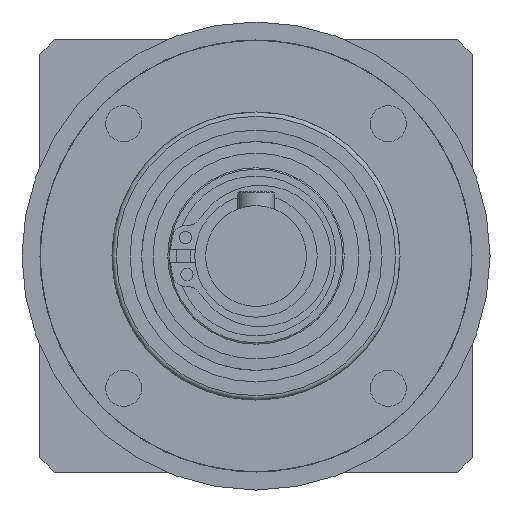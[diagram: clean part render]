
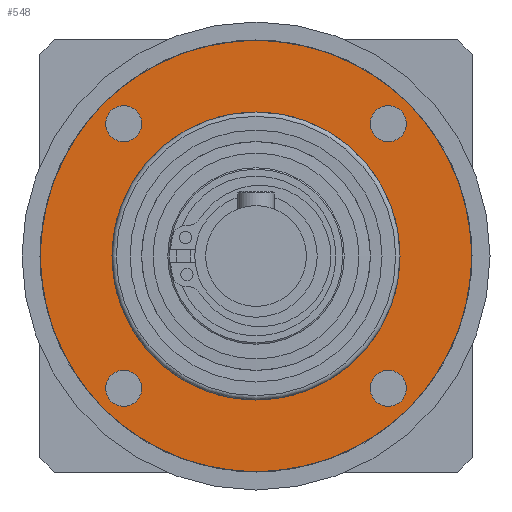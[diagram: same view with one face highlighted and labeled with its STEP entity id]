
A CAD part, left-side view. The second image highlights one B-rep face of the part: STEP entity #548.
In plain terms, the highlighted planar face has unit normal (-1, 0, 0).
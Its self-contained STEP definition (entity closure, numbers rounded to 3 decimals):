
#548=ADVANCED_FACE('',(#824,#825,#826,#827,#828,#829),#722,.T.);
#722=PLANE('',#2605);
#824=FACE_BOUND('',#1067,.T.);
#825=FACE_BOUND('',#1068,.T.);
#826=FACE_BOUND('',#1069,.T.);
#827=FACE_BOUND('',#1070,.T.);
#828=FACE_BOUND('',#1071,.T.);
#829=FACE_BOUND('',#1072,.T.);
#1067=EDGE_LOOP('',(#1379));
#1068=EDGE_LOOP('',(#1380));
#1069=EDGE_LOOP('',(#1381));
#1070=EDGE_LOOP('',(#1382));
#1071=EDGE_LOOP('',(#1383));
#1072=EDGE_LOOP('',(#1384));
#1379=ORIENTED_EDGE('',*,*,#2134,.T.);
#1380=ORIENTED_EDGE('',*,*,#2135,.T.);
#1381=ORIENTED_EDGE('',*,*,#2136,.T.);
#1382=ORIENTED_EDGE('',*,*,#2137,.T.);
#1383=ORIENTED_EDGE('',*,*,#2130,.T.);
#1384=ORIENTED_EDGE('',*,*,#2132,.F.);
#1911=VERTEX_POINT('',#3769);
#1913=VERTEX_POINT('',#3774);
#1915=VERTEX_POINT('',#3779);
#1916=VERTEX_POINT('',#3781);
#1917=VERTEX_POINT('',#3783);
#1918=VERTEX_POINT('',#3785);
#2130=EDGE_CURVE('',#1911,#1911,#2406,.T.);
#2132=EDGE_CURVE('',#1913,#1913,#2408,.T.);
#2134=EDGE_CURVE('',#1915,#1915,#2410,.T.);
#2135=EDGE_CURVE('',#1916,#1916,#2411,.T.);
#2136=EDGE_CURVE('',#1917,#1917,#2412,.T.);
#2137=EDGE_CURVE('',#1918,#1918,#2413,.T.);
#2406=CIRCLE('',#2595,30.);
#2408=CIRCLE('',#2598,20.);
#2410=CIRCLE('',#2601,2.5);
#2411=CIRCLE('',#2602,2.5);
#2412=CIRCLE('',#2603,2.5);
#2413=CIRCLE('',#2604,2.5);
#2595=AXIS2_PLACEMENT_3D('',#3768,#2985,#2986);
#2598=AXIS2_PLACEMENT_3D('',#3773,#2991,#2992);
#2601=AXIS2_PLACEMENT_3D('',#3778,#2997,#2998);
#2602=AXIS2_PLACEMENT_3D('',#3780,#2999,#3000);
#2603=AXIS2_PLACEMENT_3D('',#3782,#3001,#3002);
#2604=AXIS2_PLACEMENT_3D('',#3784,#3003,#3004);
#2605=AXIS2_PLACEMENT_3D('',#3786,#3005,#3006);
#2985=DIRECTION('',(-1.,0.,0.));
#2986=DIRECTION('',(0.,-0.707,0.707));
#2991=DIRECTION('',(-1.,0.,0.));
#2992=DIRECTION('',(0.,-0.707,0.707));
#2997=DIRECTION('',(1.,0.,0.));
#2998=DIRECTION('',(0.,0.707,0.707));
#2999=DIRECTION('',(1.,0.,0.));
#3000=DIRECTION('',(0.,-0.707,0.707));
#3001=DIRECTION('',(1.,0.,0.));
#3002=DIRECTION('',(0.,-0.707,-0.707));
#3003=DIRECTION('',(1.,0.,0.));
#3004=DIRECTION('',(0.,0.707,-0.707));
#3005=DIRECTION('',(-1.,0.,0.));
#3006=DIRECTION('',(0.,-0.707,0.707));
#3768=CARTESIAN_POINT('',(-57.55,0.,0.));
#3769=CARTESIAN_POINT('',(-57.55,-21.213,21.213));
#3773=CARTESIAN_POINT('',(-57.55,0.,0.));
#3774=CARTESIAN_POINT('',(-57.55,-14.142,14.142));
#3778=CARTESIAN_POINT('',(-57.55,-18.385,18.385));
#3779=CARTESIAN_POINT('',(-57.55,-16.617,20.153));
#3780=CARTESIAN_POINT('',(-57.55,-18.385,-18.385));
#3781=CARTESIAN_POINT('',(-57.55,-20.153,-16.617));
#3782=CARTESIAN_POINT('',(-57.55,18.385,-18.385));
#3783=CARTESIAN_POINT('',(-57.55,16.617,-20.153));
#3784=CARTESIAN_POINT('',(-57.55,18.385,18.385));
#3785=CARTESIAN_POINT('',(-57.55,20.153,16.617));
#3786=CARTESIAN_POINT('',(-57.55,0.,0.));
